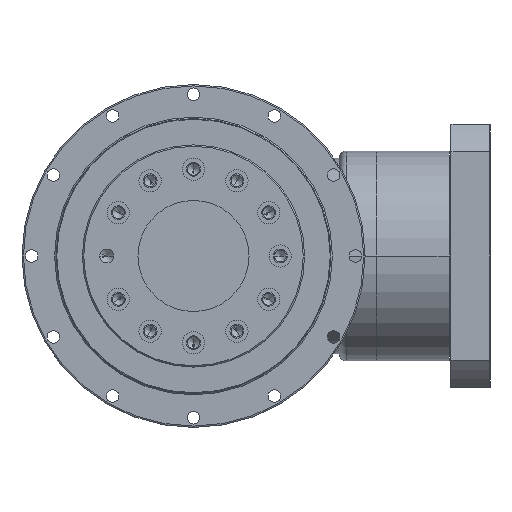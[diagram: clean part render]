
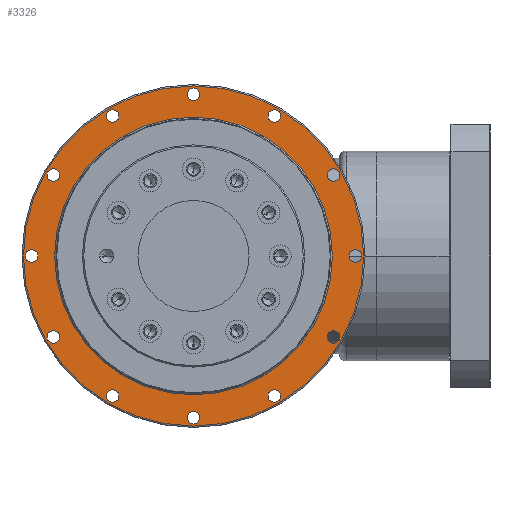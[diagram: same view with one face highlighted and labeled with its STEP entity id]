
A CAD part, left-side view. The second image highlights one B-rep face of the part: STEP entity #3326.
In plain terms, the highlighted planar face has unit normal (-1, 0, 0) as drawn and (1, 0, 0) by its records, which use the part's own axes.
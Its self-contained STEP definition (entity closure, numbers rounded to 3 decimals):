
#83=CARTESIAN_POINT('',(0.,100.892,-58.25));
#84=DIRECTION('',(-1.,0.,0.));
#85=DIRECTION('',(0.,-1.,0.));
#86=AXIS2_PLACEMENT_3D('',#83,#84,#85);
#88=CARTESIAN_POINT('',(0.,100.892,-58.25));
#89=DIRECTION('',(-1.,0.,0.));
#90=DIRECTION('',(0.,1.,0.));
#91=AXIS2_PLACEMENT_3D('',#88,#89,#90);
#93=CARTESIAN_POINT('',(0.,58.25,-100.892));
#94=DIRECTION('',(-1.,0.,0.));
#95=DIRECTION('',(0.,-1.,0.));
#96=AXIS2_PLACEMENT_3D('',#93,#94,#95);
#98=CARTESIAN_POINT('',(0.,58.25,-100.892));
#99=DIRECTION('',(-1.,0.,0.));
#100=DIRECTION('',(0.,1.,0.));
#101=AXIS2_PLACEMENT_3D('',#98,#99,#100);
#103=CARTESIAN_POINT('',(0.,0.,-116.5));
#104=DIRECTION('',(-1.,0.,0.));
#105=DIRECTION('',(0.,-1.,0.));
#106=AXIS2_PLACEMENT_3D('',#103,#104,#105);
#108=CARTESIAN_POINT('',(0.,0.,-116.5));
#109=DIRECTION('',(-1.,0.,0.));
#110=DIRECTION('',(0.,1.,0.));
#111=AXIS2_PLACEMENT_3D('',#108,#109,#110);
#113=CARTESIAN_POINT('',(0.,-58.25,-100.892));
#114=DIRECTION('',(-1.,0.,0.));
#115=DIRECTION('',(0.,-1.,0.));
#116=AXIS2_PLACEMENT_3D('',#113,#114,#115);
#118=CARTESIAN_POINT('',(0.,-58.25,-100.892));
#119=DIRECTION('',(-1.,0.,0.));
#120=DIRECTION('',(0.,1.,0.));
#121=AXIS2_PLACEMENT_3D('',#118,#119,#120);
#123=CARTESIAN_POINT('',(0.,-100.892,-58.25));
#124=DIRECTION('',(-1.,0.,0.));
#125=DIRECTION('',(0.,-1.,0.));
#126=AXIS2_PLACEMENT_3D('',#123,#124,#125);
#128=CARTESIAN_POINT('',(0.,-100.892,-58.25));
#129=DIRECTION('',(-1.,0.,0.));
#130=DIRECTION('',(0.,1.,0.));
#131=AXIS2_PLACEMENT_3D('',#128,#129,#130);
#133=CARTESIAN_POINT('',(0.,-116.5,0.));
#134=DIRECTION('',(-1.,0.,0.));
#135=DIRECTION('',(0.,-1.,0.));
#136=AXIS2_PLACEMENT_3D('',#133,#134,#135);
#138=CARTESIAN_POINT('',(0.,-116.5,0.));
#139=DIRECTION('',(-1.,0.,0.));
#140=DIRECTION('',(0.,1.,0.));
#141=AXIS2_PLACEMENT_3D('',#138,#139,#140);
#143=CARTESIAN_POINT('',(0.,-100.892,58.25));
#144=DIRECTION('',(-1.,0.,0.));
#145=DIRECTION('',(0.,-1.,0.));
#146=AXIS2_PLACEMENT_3D('',#143,#144,#145);
#148=CARTESIAN_POINT('',(0.,-100.892,58.25));
#149=DIRECTION('',(-1.,0.,0.));
#150=DIRECTION('',(0.,1.,0.));
#151=AXIS2_PLACEMENT_3D('',#148,#149,#150);
#153=CARTESIAN_POINT('',(0.,-58.25,100.892));
#154=DIRECTION('',(-1.,0.,0.));
#155=DIRECTION('',(0.,-1.,0.));
#156=AXIS2_PLACEMENT_3D('',#153,#154,#155);
#158=CARTESIAN_POINT('',(0.,-58.25,100.892));
#159=DIRECTION('',(-1.,0.,0.));
#160=DIRECTION('',(0.,1.,0.));
#161=AXIS2_PLACEMENT_3D('',#158,#159,#160);
#163=CARTESIAN_POINT('',(0.,0.,116.5));
#164=DIRECTION('',(-1.,0.,0.));
#165=DIRECTION('',(0.,-1.,0.));
#166=AXIS2_PLACEMENT_3D('',#163,#164,#165);
#168=CARTESIAN_POINT('',(0.,0.,116.5));
#169=DIRECTION('',(-1.,0.,0.));
#170=DIRECTION('',(0.,1.,0.));
#171=AXIS2_PLACEMENT_3D('',#168,#169,#170);
#173=CARTESIAN_POINT('',(0.,58.25,100.892));
#174=DIRECTION('',(-1.,0.,0.));
#175=DIRECTION('',(0.,-1.,0.));
#176=AXIS2_PLACEMENT_3D('',#173,#174,#175);
#178=CARTESIAN_POINT('',(0.,58.25,100.892));
#179=DIRECTION('',(-1.,0.,0.));
#180=DIRECTION('',(0.,1.,0.));
#181=AXIS2_PLACEMENT_3D('',#178,#179,#180);
#183=CARTESIAN_POINT('',(0.,100.892,58.25));
#184=DIRECTION('',(-1.,0.,0.));
#185=DIRECTION('',(0.,-1.,0.));
#186=AXIS2_PLACEMENT_3D('',#183,#184,#185);
#188=CARTESIAN_POINT('',(0.,100.892,58.25));
#189=DIRECTION('',(-1.,0.,0.));
#190=DIRECTION('',(0.,1.,0.));
#191=AXIS2_PLACEMENT_3D('',#188,#189,#190);
#193=CARTESIAN_POINT('',(0.,0.,0.));
#194=DIRECTION('',(1.,0.,0.));
#195=DIRECTION('',(0.,1.,0.));
#196=AXIS2_PLACEMENT_3D('',#193,#194,#195);
#198=CARTESIAN_POINT('',(0.,0.,0.));
#199=DIRECTION('',(-1.,0.,0.));
#200=DIRECTION('',(0.,1.,0.));
#201=AXIS2_PLACEMENT_3D('',#198,#199,#200);
#203=CARTESIAN_POINT('',(0.,116.5,0.));
#204=DIRECTION('',(-1.,0.,0.));
#205=DIRECTION('',(0.,-1.,0.));
#206=AXIS2_PLACEMENT_3D('',#203,#204,#205);
#208=CARTESIAN_POINT('',(0.,116.5,0.));
#209=DIRECTION('',(-1.,0.,0.));
#210=DIRECTION('',(0.,1.,0.));
#211=AXIS2_PLACEMENT_3D('',#208,#209,#210);
#1624=CARTESIAN_POINT('',(0.,0.,0.));
#1625=DIRECTION('',(-1.,0.,0.));
#1626=DIRECTION('',(0.,-1.,0.));
#1627=AXIS2_PLACEMENT_3D('',#1624,#1625,#1626);
#1639=CARTESIAN_POINT('',(0.,0.,0.));
#1640=DIRECTION('',(-1.,0.,0.));
#1641=DIRECTION('',(0.,1.,0.));
#1642=AXIS2_PLACEMENT_3D('',#1639,#1640,#1641);
#2453=CARTESIAN_POINT('',(0.,100.,0.));
#2454=CARTESIAN_POINT('',(0.,-100.,0.));
#2455=VERTEX_POINT('',#2453);
#2456=VERTEX_POINT('',#2454);
#2461=CARTESIAN_POINT('',(0.,112.,0.));
#2462=CARTESIAN_POINT('',(0.,121.,0.));
#2463=VERTEX_POINT('',#2461);
#2464=VERTEX_POINT('',#2462);
#2469=CARTESIAN_POINT('',(0.,96.392,58.25));
#2470=CARTESIAN_POINT('',(0.,105.392,58.25));
#2471=VERTEX_POINT('',#2469);
#2472=VERTEX_POINT('',#2470);
#2477=CARTESIAN_POINT('',(0.,53.75,100.892));
#2478=CARTESIAN_POINT('',(0.,62.75,100.892));
#2479=VERTEX_POINT('',#2477);
#2480=VERTEX_POINT('',#2478);
#2485=CARTESIAN_POINT('',(0.,-4.5,116.5));
#2486=CARTESIAN_POINT('',(0.,4.5,116.5));
#2487=VERTEX_POINT('',#2485);
#2488=VERTEX_POINT('',#2486);
#2493=CARTESIAN_POINT('',(0.,-62.75,100.892));
#2494=CARTESIAN_POINT('',(0.,-53.75,100.892));
#2495=VERTEX_POINT('',#2493);
#2496=VERTEX_POINT('',#2494);
#2501=CARTESIAN_POINT('',(0.,-105.392,58.25));
#2502=CARTESIAN_POINT('',(0.,-96.392,58.25));
#2503=VERTEX_POINT('',#2501);
#2504=VERTEX_POINT('',#2502);
#2509=CARTESIAN_POINT('',(0.,-121.,0.));
#2510=CARTESIAN_POINT('',(0.,-112.,0.));
#2511=VERTEX_POINT('',#2509);
#2512=VERTEX_POINT('',#2510);
#2517=CARTESIAN_POINT('',(0.,-105.392,-58.25));
#2518=CARTESIAN_POINT('',(0.,-96.392,-58.25));
#2519=VERTEX_POINT('',#2517);
#2520=VERTEX_POINT('',#2518);
#2525=CARTESIAN_POINT('',(0.,-62.75,-100.892));
#2526=CARTESIAN_POINT('',(0.,-53.75,-100.892));
#2527=VERTEX_POINT('',#2525);
#2528=VERTEX_POINT('',#2526);
#2533=CARTESIAN_POINT('',(0.,-4.5,-116.5));
#2534=CARTESIAN_POINT('',(0.,4.5,-116.5));
#2535=VERTEX_POINT('',#2533);
#2536=VERTEX_POINT('',#2534);
#2541=CARTESIAN_POINT('',(0.,53.75,-100.892));
#2542=CARTESIAN_POINT('',(0.,62.75,-100.892));
#2543=VERTEX_POINT('',#2541);
#2544=VERTEX_POINT('',#2542);
#2549=CARTESIAN_POINT('',(0.,96.392,-58.25));
#2550=CARTESIAN_POINT('',(0.,105.392,-58.25));
#2551=VERTEX_POINT('',#2549);
#2552=VERTEX_POINT('',#2550);
#2577=CARTESIAN_POINT('',(0.,-122.5,
0.));
#2578=CARTESIAN_POINT('',(0.,122.5,
0.));
#2579=VERTEX_POINT('',#2577);
#2580=VERTEX_POINT('',#2578);
#3239=CARTESIAN_POINT('',(0.,0.,0.));
#3240=DIRECTION('',(1.,0.,0.));
#3241=DIRECTION('',(0.,-1.,0.));
#3242=AXIS2_PLACEMENT_3D('',#3239,#3240,#3241);
#3243=PLANE('',#3242);
#3245=ORIENTED_EDGE('',*,*,#3244,.T.);
#3247=ORIENTED_EDGE('',*,*,#3246,.T.);
#3248=EDGE_LOOP('',(#3245,#3247));
#3249=FACE_OUTER_BOUND('',#3248,.F.);
#3251=ORIENTED_EDGE('',*,*,#3250,.F.);
#3253=ORIENTED_EDGE('',*,*,#3252,.F.);
#3254=EDGE_LOOP('',(#3251,#3253));
#3255=FACE_BOUND('',#3254,.F.);
#3257=ORIENTED_EDGE('',*,*,#3256,.F.);
#3259=ORIENTED_EDGE('',*,*,#3258,.F.);
#3260=EDGE_LOOP('',(#3257,#3259));
#3261=FACE_BOUND('',#3260,.F.);
#3263=ORIENTED_EDGE('',*,*,#3262,.F.);
#3265=ORIENTED_EDGE('',*,*,#3264,.F.);
#3266=EDGE_LOOP('',(#3263,#3265));
#3267=FACE_BOUND('',#3266,.F.);
#3269=ORIENTED_EDGE('',*,*,#3268,.F.);
#3271=ORIENTED_EDGE('',*,*,#3270,.F.);
#3272=EDGE_LOOP('',(#3269,#3271));
#3273=FACE_BOUND('',#3272,.F.);
#3275=ORIENTED_EDGE('',*,*,#3274,.F.);
#3277=ORIENTED_EDGE('',*,*,#3276,.F.);
#3278=EDGE_LOOP('',(#3275,#3277));
#3279=FACE_BOUND('',#3278,.F.);
#3281=ORIENTED_EDGE('',*,*,#3280,.F.);
#3283=ORIENTED_EDGE('',*,*,#3282,.F.);
#3284=EDGE_LOOP('',(#3281,#3283));
#3285=FACE_BOUND('',#3284,.F.);
#3287=ORIENTED_EDGE('',*,*,#3286,.F.);
#3289=ORIENTED_EDGE('',*,*,#3288,.F.);
#3290=EDGE_LOOP('',(#3287,#3289));
#3291=FACE_BOUND('',#3290,.F.);
#3293=ORIENTED_EDGE('',*,*,#3292,.F.);
#3295=ORIENTED_EDGE('',*,*,#3294,.F.);
#3296=EDGE_LOOP('',(#3293,#3295));
#3297=FACE_BOUND('',#3296,.F.);
#3299=ORIENTED_EDGE('',*,*,#3298,.F.);
#3301=ORIENTED_EDGE('',*,*,#3300,.F.);
#3302=EDGE_LOOP('',(#3299,#3301));
#3303=FACE_BOUND('',#3302,.F.);
#3305=ORIENTED_EDGE('',*,*,#3304,.F.);
#3307=ORIENTED_EDGE('',*,*,#3306,.F.);
#3308=EDGE_LOOP('',(#3305,#3307));
#3309=FACE_BOUND('',#3308,.F.);
#3311=ORIENTED_EDGE('',*,*,#3310,.F.);
#3313=ORIENTED_EDGE('',*,*,#3312,.F.);
#3314=EDGE_LOOP('',(#3311,#3313));
#3315=FACE_BOUND('',#3314,.F.);
#3316=ORIENTED_EDGE('',*,*,#3221,.T.);
#3317=ORIENTED_EDGE('',*,*,#3206,.F.);
#3318=EDGE_LOOP('',(#3316,#3317));
#3319=FACE_BOUND('',#3318,.F.);
#3321=ORIENTED_EDGE('',*,*,#3320,.F.);
#3323=ORIENTED_EDGE('',*,*,#3322,.F.);
#3324=EDGE_LOOP('',(#3321,#3323));
#3325=FACE_BOUND('',#3324,.F.);
#3326=ADVANCED_FACE('',(#3249,#3255,#3261,#3267,#3273,#3279,#3285,#3291,#3297,
#3303,#3309,#3315,#3319,#3325),#3243,.T.);
#87=CIRCLE('',#86,4.5);
#92=CIRCLE('',#91,4.5);
#97=CIRCLE('',#96,4.5);
#102=CIRCLE('',#101,4.5);
#107=CIRCLE('',#106,4.5);
#112=CIRCLE('',#111,4.5);
#117=CIRCLE('',#116,4.5);
#122=CIRCLE('',#121,4.5);
#127=CIRCLE('',#126,4.5);
#132=CIRCLE('',#131,4.5);
#137=CIRCLE('',#136,4.5);
#142=CIRCLE('',#141,4.5);
#147=CIRCLE('',#146,4.5);
#152=CIRCLE('',#151,4.5);
#157=CIRCLE('',#156,4.5);
#162=CIRCLE('',#161,4.5);
#167=CIRCLE('',#166,4.5);
#172=CIRCLE('',#171,4.5);
#177=CIRCLE('',#176,4.5);
#182=CIRCLE('',#181,4.5);
#187=CIRCLE('',#186,4.5);
#192=CIRCLE('',#191,4.5);
#197=CIRCLE('',#196,100.);
#202=CIRCLE('',#201,100.);
#207=CIRCLE('',#206,4.5);
#212=CIRCLE('',#211,4.5);
#1628=CIRCLE('',#1627,122.5);
#1643=CIRCLE('',#1642,122.5);
#3206=EDGE_CURVE('',#2455,#2456,#202,.T.);
#3221=EDGE_CURVE('',#2455,#2456,#197,.T.);
#3244=EDGE_CURVE('',#2579,#2580,#1628,.T.);
#3246=EDGE_CURVE('',#2580,#2579,#1643,.T.);
#3250=EDGE_CURVE('',#2551,#2552,#87,.T.);
#3252=EDGE_CURVE('',#2552,#2551,#92,.T.);
#3256=EDGE_CURVE('',#2543,#2544,#97,.T.);
#3258=EDGE_CURVE('',#2544,#2543,#102,.T.);
#3262=EDGE_CURVE('',#2535,#2536,#107,.T.);
#3264=EDGE_CURVE('',#2536,#2535,#112,.T.);
#3268=EDGE_CURVE('',#2527,#2528,#117,.T.);
#3270=EDGE_CURVE('',#2528,#2527,#122,.T.);
#3274=EDGE_CURVE('',#2519,#2520,#127,.T.);
#3276=EDGE_CURVE('',#2520,#2519,#132,.T.);
#3280=EDGE_CURVE('',#2511,#2512,#137,.T.);
#3282=EDGE_CURVE('',#2512,#2511,#142,.T.);
#3286=EDGE_CURVE('',#2503,#2504,#147,.T.);
#3288=EDGE_CURVE('',#2504,#2503,#152,.T.);
#3292=EDGE_CURVE('',#2495,#2496,#157,.T.);
#3294=EDGE_CURVE('',#2496,#2495,#162,.T.);
#3298=EDGE_CURVE('',#2487,#2488,#167,.T.);
#3300=EDGE_CURVE('',#2488,#2487,#172,.T.);
#3304=EDGE_CURVE('',#2479,#2480,#177,.T.);
#3306=EDGE_CURVE('',#2480,#2479,#182,.T.);
#3310=EDGE_CURVE('',#2471,#2472,#187,.T.);
#3312=EDGE_CURVE('',#2472,#2471,#192,.T.);
#3320=EDGE_CURVE('',#2463,#2464,#207,.T.);
#3322=EDGE_CURVE('',#2464,#2463,#212,.T.);
